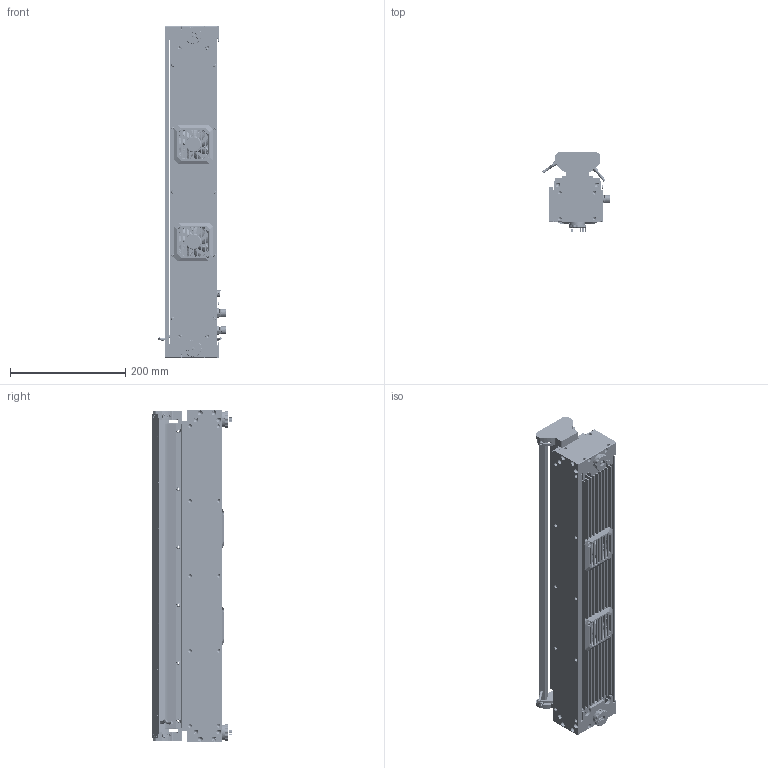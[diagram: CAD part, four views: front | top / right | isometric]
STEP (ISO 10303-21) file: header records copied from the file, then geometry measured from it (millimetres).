
FILE_DESCRIPTION((''),'2;1');
FILE_NAME('00-CIS490_SW0001','2026-08-14T16:37:34',('chenyang119'),(''),'CREO PARAMETRIC BY PTC INC, 2020044','CREO PARAMETRIC BY PTC INC, 2020044','');
FILE_SCHEMA(('CONFIG_CONTROL_DESIGN'));
Products named in the file (1): 00-CIS490_SW0001
Bounding box: 117.48 x 138.69 x 576.06 mm (x, y, z)
Surface area: 898286 mm2 (no closed solid volume)
Topology: 0 solids, 397 shells, 4521 faces, 19317 edges, 14770 vertices
Faces by surface type: plane 2176, cylinder 1168, cone 738, bspline 262, torus 161, sphere 14, extrusion 2
Entity records: 243534 total; most frequent: CARTESIAN_POINT 91817, DIRECTION 30268, ORIENTED_EDGE 27795, EDGE_CURVE 19247, VERTEX_POINT 14772, VECTOR 11234, LINE 11232, AXIS2_PLACEMENT_3D 9517
